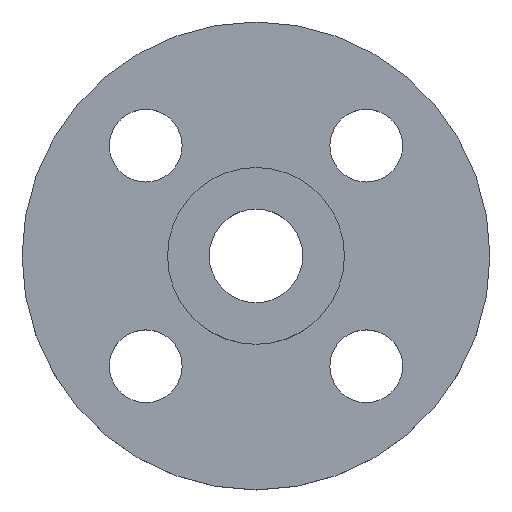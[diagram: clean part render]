
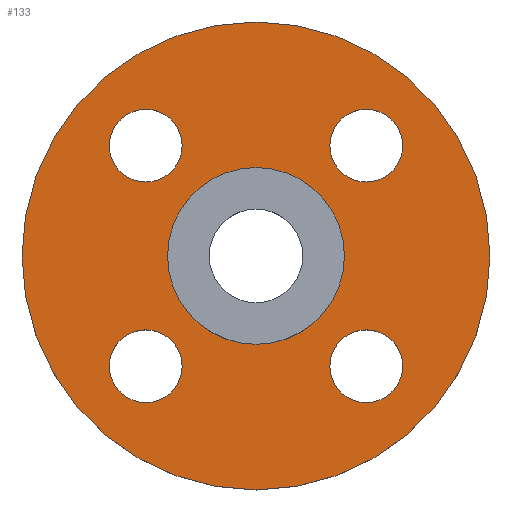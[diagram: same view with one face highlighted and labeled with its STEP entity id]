
A CAD part, top view. The second image highlights one B-rep face of the part: STEP entity #133.
In plain terms, the highlighted planar face has unit normal (0, 0, 1).
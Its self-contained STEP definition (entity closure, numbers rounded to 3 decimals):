
#1 = FACE_BOUND ( 'NONE', #134, .T. ) ;
#2 = FACE_BOUND ( 'NONE', #127, .T. ) ;
#10 = CARTESIAN_POINT ( 'NONE',  ( 45., 0., -4.5 ) ) ;
#11 = CARTESIAN_POINT ( 'NONE',  ( -28.213, -21.213, -4.5 ) ) ;
#12 = CARTESIAN_POINT ( 'NONE',  ( 14.213, -21.213, -4.5 ) ) ;
#17 = CARTESIAN_POINT ( 'NONE',  ( -28.213, 21.213, -4.5 ) ) ;
#19 = CARTESIAN_POINT ( 'NONE',  ( -14.213, 21.213, -4.5 ) ) ;
#20 = EDGE_CURVE ( 'NONE', #76, #80, #466, .T. ) ;
#29 = EDGE_CURVE ( 'NONE', #92, #57, #246, .T. ) ;
#34 = CARTESIAN_POINT ( 'NONE',  ( 14.213, 21.213, -4.5 ) ) ;
#36 = CARTESIAN_POINT ( 'NONE',  ( -45., 0., -4.5 ) ) ;
#37 = DIRECTION ( 'NONE',  ( -1., 0., 0. ) ) ;
#38 = DIRECTION ( 'NONE',  ( 0., 0., -1. ) ) ;
#39 = CARTESIAN_POINT ( 'NONE',  ( 0., 0., -4.5 ) ) ;
#49 = CARTESIAN_POINT ( 'NONE',  ( -21.213, 21.213, -4.5 ) ) ;
#50 = DIRECTION ( 'NONE',  ( 1., 0., 0. ) ) ;
#51 = DIRECTION ( 'NONE',  ( 0., 0., -1. ) ) ;
#53 = CARTESIAN_POINT ( 'NONE',  ( -21.213, 21.213, -4.5 ) ) ;
#54 = ORIENTED_EDGE ( 'NONE', *, *, #330, .T. ) ;
#57 = VERTEX_POINT ( 'NONE', #36 ) ;
#62 = VERTEX_POINT ( 'NONE', #34 ) ;
#65 = CIRCLE ( 'NONE', #500, 7. ) ;
#68 = DIRECTION ( 'NONE',  ( 0., 0., -1. ) ) ;
#70 = AXIS2_PLACEMENT_3D ( 'NONE', #583, #586, #582 ) ;
#72 = CIRCLE ( 'NONE', #276, 17. ) ;
#76 = VERTEX_POINT ( 'NONE', #19 ) ;
#80 = VERTEX_POINT ( 'NONE', #17 ) ;
#85 = ORIENTED_EDGE ( 'NONE', *, *, #146, .T. ) ;
#87 = EDGE_LOOP ( 'NONE', ( #221, #222 ) ) ;
#90 = VERTEX_POINT ( 'NONE', #12 ) ;
#91 = VERTEX_POINT ( 'NONE', #11 ) ;
#92 = VERTEX_POINT ( 'NONE', #10 ) ;
#102 = CARTESIAN_POINT ( 'NONE',  ( -21.213, -21.213, -4.5 ) ) ;
#107 = ORIENTED_EDGE ( 'NONE', *, *, #156, .T. ) ;
#108 = AXIS2_PLACEMENT_3D ( 'NONE', #128, #163, #129 ) ;
#124 = CARTESIAN_POINT ( 'NONE',  ( 21.213, 21.213, -4.5 ) ) ;
#127 = EDGE_LOOP ( 'NONE', ( #107, #54 ) ) ;
#128 = CARTESIAN_POINT ( 'NONE',  ( 0., 0., -4.5 ) ) ;
#129 = DIRECTION ( 'NONE',  ( -1., 0., 0. ) ) ;
#131 = EDGE_LOOP ( 'NONE', ( #215, #210 ) ) ;
#132 = DIRECTION ( 'NONE',  ( 1., 0., 0. ) ) ;
#133 = ADVANCED_FACE ( 'NONE', ( #2, #1, #563, #581, #540, #566 ), #585, .T. ) ;
#134 = EDGE_LOOP ( 'NONE', ( #85, #211 ) ) ;
#135 = VERTEX_POINT ( 'NONE', #571 ) ;
#137 = VERTEX_POINT ( 'NONE', #564 ) ;
#138 = DIRECTION ( 'NONE',  ( 0., 0., -1. ) ) ;
#145 = AXIS2_PLACEMENT_3D ( 'NONE', #124, #138, #161 ) ;
#146 = EDGE_CURVE ( 'NONE', #218, #91, #346, .T. ) ;
#147 = CIRCLE ( 'NONE', #145, 7. ) ;
#155 = DIRECTION ( 'NONE',  ( 0., 0., -1. ) ) ;
#156 = EDGE_CURVE ( 'NONE', #205, #90, #530, .T. ) ;
#160 = DIRECTION ( 'NONE',  ( -1., 0., 0. ) ) ;
#161 = DIRECTION ( 'NONE',  ( 1., 0., 0. ) ) ;
#162 = AXIS2_PLACEMENT_3D ( 'NONE', #569, #567, #584 ) ;
#163 = DIRECTION ( 'NONE',  ( 0., 0., -1. ) ) ;
#164 = DIRECTION ( 'NONE',  ( 1., 0., 0. ) ) ;
#179 = EDGE_CURVE ( 'NONE', #91, #218, #65, .T. ) ;
#205 = VERTEX_POINT ( 'NONE', #319 ) ;
#207 = EDGE_LOOP ( 'NONE', ( #212, #214 ) ) ;
#210 = ORIENTED_EDGE ( 'NONE', *, *, #476, .T. ) ;
#211 = ORIENTED_EDGE ( 'NONE', *, *, #179, .T. ) ;
#212 = ORIENTED_EDGE ( 'NONE', *, *, #451, .T. ) ;
#213 = ORIENTED_EDGE ( 'NONE', *, *, #464, .T. ) ;
#214 = ORIENTED_EDGE ( 'NONE', *, *, #506, .T. ) ;
#215 = ORIENTED_EDGE ( 'NONE', *, *, #20, .T. ) ;
#216 = ORIENTED_EDGE ( 'NONE', *, *, #362, .T. ) ;
#218 = VERTEX_POINT ( 'NONE', #323 ) ;
#221 = ORIENTED_EDGE ( 'NONE', *, *, #29, .F. ) ;
#222 = ORIENTED_EDGE ( 'NONE', *, *, #529, .F. ) ;
#231 = AXIS2_PLACEMENT_3D ( 'NONE', #424, #441, #442 ) ;
#246 = CIRCLE ( 'NONE', #512, 45. ) ;
#259 = CARTESIAN_POINT ( 'NONE',  ( 28.213, 21.213, -4.5 ) ) ;
#261 = EDGE_LOOP ( 'NONE', ( #213, #216 ) ) ;
#276 = AXIS2_PLACEMENT_3D ( 'NONE', #548, #364, #160 ) ;
#277 = AXIS2_PLACEMENT_3D ( 'NONE', #580, #578, #577 ) ;
#290 = CIRCLE ( 'NONE', #535, 7. ) ;
#319 = CARTESIAN_POINT ( 'NONE',  ( 28.213, -21.213, -4.5 ) ) ;
#321 = AXIS2_PLACEMENT_3D ( 'NONE', #49, #68, #132 ) ;
#323 = CARTESIAN_POINT ( 'NONE',  ( -14.213, -21.213, -4.5 ) ) ;
#330 = EDGE_CURVE ( 'NONE', #90, #205, #290, .T. ) ;
#342 = CIRCLE ( 'NONE', #108, 45. ) ;
#345 = CIRCLE ( 'NONE', #321, 7. ) ;
#346 = CIRCLE ( 'NONE', #70, 7. ) ;
#362 = EDGE_CURVE ( 'NONE', #137, #135, #492, .T. ) ;
#364 = DIRECTION ( 'NONE',  ( 0., 0., -1. ) ) ;
#370 = CIRCLE ( 'NONE', #503, 7. ) ;
#408 = CARTESIAN_POINT ( 'NONE',  ( 21.213, -21.213, -4.5 ) ) ;
#409 = DIRECTION ( 'NONE',  ( 0., 0., -1. ) ) ;
#424 = CARTESIAN_POINT ( 'NONE',  ( 0., 0., -4.5 ) ) ;
#441 = DIRECTION ( 'NONE',  ( 0., 0., -1. ) ) ;
#442 = DIRECTION ( 'NONE',  ( -1., 0., 0. ) ) ;
#451 = EDGE_CURVE ( 'NONE', #471, #62, #370, .T. ) ;
#452 = AXIS2_PLACEMENT_3D ( 'NONE', #53, #51, #50 ) ;
#464 = EDGE_CURVE ( 'NONE', #135, #137, #72, .T. ) ;
#466 = CIRCLE ( 'NONE', #452, 7. ) ;
#467 = DIRECTION ( 'NONE',  ( 1., 0., 0. ) ) ;
#471 = VERTEX_POINT ( 'NONE', #259 ) ;
#476 = EDGE_CURVE ( 'NONE', #80, #76, #345, .T. ) ;
#492 = CIRCLE ( 'NONE', #231, 17. ) ;
#500 = AXIS2_PLACEMENT_3D ( 'NONE', #102, #155, #164 ) ;
#503 = AXIS2_PLACEMENT_3D ( 'NONE', #576, #562, #552 ) ;
#506 = EDGE_CURVE ( 'NONE', #62, #471, #147, .T. ) ;
#512 = AXIS2_PLACEMENT_3D ( 'NONE', #39, #38, #37 ) ;
#529 = EDGE_CURVE ( 'NONE', #57, #92, #342, .T. ) ;
#530 = CIRCLE ( 'NONE', #277, 7. ) ;
#535 = AXIS2_PLACEMENT_3D ( 'NONE', #408, #409, #467 ) ;
#540 = FACE_BOUND ( 'NONE', #261, .T. ) ;
#548 = CARTESIAN_POINT ( 'NONE',  ( 0., 0., -4.5 ) ) ;
#552 = DIRECTION ( 'NONE',  ( 1., 0., 0. ) ) ;
#562 = DIRECTION ( 'NONE',  ( 0., 0., -1. ) ) ;
#563 = FACE_BOUND ( 'NONE', #131, .T. ) ;
#564 = CARTESIAN_POINT ( 'NONE',  ( 17., 0., -4.5 ) ) ;
#566 = FACE_OUTER_BOUND ( 'NONE', #87, .T. ) ;
#567 = DIRECTION ( 'NONE',  ( 0., 0., 1. ) ) ;
#569 = CARTESIAN_POINT ( 'NONE',  ( 17., 0., -4.5 ) ) ;
#571 = CARTESIAN_POINT ( 'NONE',  ( -17., 0., -4.5 ) ) ;
#576 = CARTESIAN_POINT ( 'NONE',  ( 21.213, 21.213, -4.5 ) ) ;
#577 = DIRECTION ( 'NONE',  ( 1., 0., 0. ) ) ;
#578 = DIRECTION ( 'NONE',  ( 0., 0., -1. ) ) ;
#580 = CARTESIAN_POINT ( 'NONE',  ( 21.213, -21.213, -4.5 ) ) ;
#581 = FACE_BOUND ( 'NONE', #207, .T. ) ;
#582 = DIRECTION ( 'NONE',  ( 1., 0., 0. ) ) ;
#583 = CARTESIAN_POINT ( 'NONE',  ( -21.213, -21.213, -4.5 ) ) ;
#584 = DIRECTION ( 'NONE',  ( 1., 0., 0. ) ) ;
#585 = PLANE ( 'NONE',  #162 ) ;
#586 = DIRECTION ( 'NONE',  ( 0., 0., -1. ) ) ;
